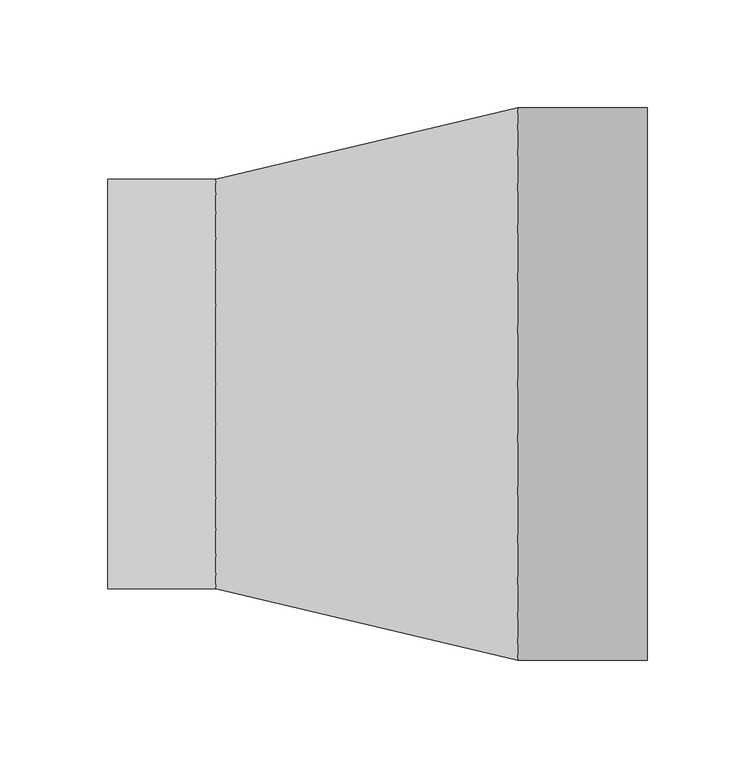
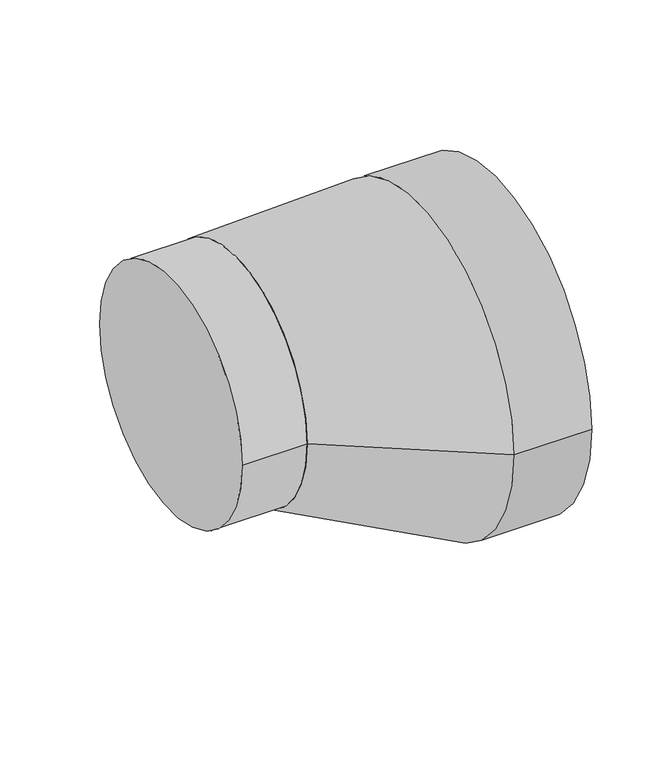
"""IFC4 building model written with IfcOpenShell, lengths in millimetres: duct fitting geometry, NLRS_57_DUF_UN_excentric EPP adapter_M&G : ø160 - ø160."""

from ifc_helpers import new_model, si_unit, point, frame, frame_2d, origin, origin_2d, place, context, project, spatial, circle_curve, trimmed, segment, composite_curve, outline, extrude, source, transform, mapped, element, save
from ifc_brep_helpers import plane_surface, spline_surface, advanced_brep


def duct_fitting_aabe3681(model_context):
    return source(origin(), model_context, "Body", "SolidModel", [
        advanced_brep(
        [(65.0, -128.0, -38.0), (65.0, 128.0, -38.0), (-75.0, -95.0, 0.0), (-75.0, 95.0, 0.0)],
        [
            (0, 1, circle_curve(frame((65.0, 0.0, -38.0), z_axis=(1.0, 0.0, 0.0), x_axis=(0.0, 1.0, 0.0)), 128.0)),
            (1, 0, circle_curve(frame((65.0, 0.0, -38.0), z_axis=(1.0, 0.0, 0.0), x_axis=(0.0, 1.0, 0.0)), 128.0)),
            (2, 3, circle_curve(frame((-75.0, 0.0, 0.0), z_axis=(-1.0, 0.0, 0.0), x_axis=(0.0, 1.0, 0.0)), 95.0)),
            (3, 2, circle_curve(frame((-75.0, 0.0, 0.0), z_axis=(-1.0, 0.0, 0.0), x_axis=(0.0, 1.0, 0.0)), 95.0)),
            (3, 1),
            (0, 2),
        ],
        [
            plane_surface(frame((65.0, 0.0, -38.0), z_axis=(1.0, 0.0, 0.0), x_axis=(0.0, 0.0, -1.0))),
            plane_surface(frame((-75.0, 0.0, 0.0), z_axis=(-1.0, 0.0, 0.0), x_axis=(0.0, 0.0, -1.0))),
            spline_surface(2, 1, [[(-75.0, -95.0, 0.0), (65.0, -128.0, -38.0)], [(-75.0, -95.0, -95.0), (65.0, -128.0, -166.0)], [(-75.0, 0.0, -95.0), (65.0, 0.0, -166.0)], [(-75.0, 95.0, -95.0), (65.0, 128.0, -166.0)], [(-75.0, 95.0, 0.0), (65.0, 128.0, -38.0)]], [3, 2, 3], [2, 2], [0.0, 1.0, 2.0], [0.0, 1.0], weights=[[1.0, 1.0], [0.7071067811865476, 0.7071067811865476], [1.0, 1.0], [0.7071067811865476, 0.7071067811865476], [1.0, 1.0]]),
            spline_surface(2, 1, [[(-75.0, 95.0, 0.0), (65.0, 128.0, -38.0)], [(-75.0, 95.0, 95.0), (65.0, 128.0, 90.0)], [(-75.0, 0.0, 95.0), (65.0, 0.0, 90.0)], [(-75.0, -95.0, 95.0), (65.0, -128.0, 90.0)], [(-75.0, -95.0, 0.0), (65.0, -128.0, -38.0)]], [3, 2, 3], [2, 2], [0.0, 1.0, 2.0], [0.0, 1.0], weights=[[1.0, 1.0], [0.7071067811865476, 0.7071067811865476], [1.0, 1.0], [0.7071067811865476, 0.7071067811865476], [1.0, 1.0]]),
        ],
        [
            (0, [[1, 2]]),
            (1, [[3, 4]]),
            (2, [[-4, 5, -1, 6]]),
            (3, [[-3, -6, -2, -5]]),
        ],
    ),
        extrude(outline(composite_curve([segment(trimmed(circle_curve(origin_2d(), 95.0), [point((95.0, 0.0))], [point((-95.0, 0.0))], False, "CARTESIAN"), True, "CONTINUOUS"), segment(trimmed(circle_curve(origin_2d(), 95.0), [point((-95.0, 0.0))], [point((95.0, 0.0))], False, "CARTESIAN"), True, "CONTINUOUS")], self_intersect=False)), frame((-125.0, 0.0, 0.0), z_axis=(1.0, 0.0, 0.0), x_axis=(0.0, 1.0, 0.0)), (0.0, 0.0, 1.0), 50.0),
        extrude(outline(composite_curve([segment(trimmed(circle_curve(frame_2d((0.0, -38.0)), 128.0), [point((-128.0, -38.0))], [point((128.0, -38.0))], False, "CARTESIAN"), True, "CONTINUOUS"), segment(trimmed(circle_curve(frame_2d((0.0, -38.0)), 128.0), [point((128.0, -38.0))], [point((-128.0, -38.0))], False, "CARTESIAN"), True, "CONTINUOUS")], self_intersect=False), holes=[composite_curve([segment(trimmed(circle_curve(frame_2d((0.0, -38.0)), 101.5), [point((101.5, -38.0))], [point((-101.5, -38.0))], True, "CARTESIAN"), True, "CONTINUOUS"), segment(trimmed(circle_curve(frame_2d((0.0, -38.0)), 101.5), [point((-101.5, -38.0))], [point((101.5, -38.0))], True, "CARTESIAN"), True, "CONTINUOUS")], self_intersect=False)]), frame((65.0, 0.0, 0.0), z_axis=(1.0, 0.0, 0.0), x_axis=(0.0, 1.0, 0.0)), (0.0, 0.0, 1.0), 60.0),
    ])


if __name__ == "__main__":
    model = new_model("IFC4")
    model_context = context("Model", 3, world=origin())
    ifc_project = project(units=[si_unit("LENGTHUNIT", "METRE", prefix="MILLI")], contexts=[model_context])
    site = spatial("IfcSite", under=ifc_project)
    building = spatial("IfcBuilding", under=site)
    placement = place(None, origin())
    duct_fitting_shape = duct_fitting_aabe3681(model_context)
    element("IfcDuctFitting", 1, ObjectType="NLRS_57_DUF_UN_excentric EPP adapter_M&G : ø160 - ø160", at=placement, inside=building, context=model_context, shape_type="MappedRepresentation", body=[
        mapped(duct_fitting_shape, transform((0.0, 0.0, 0.0), x_axis=(1.0, 0.0, 0.0), y_axis=(0.0, 1.0, 0.0), z_axis=(0.0, 0.0, 1.0))),
    ])
    save(model, "model.ifc")
